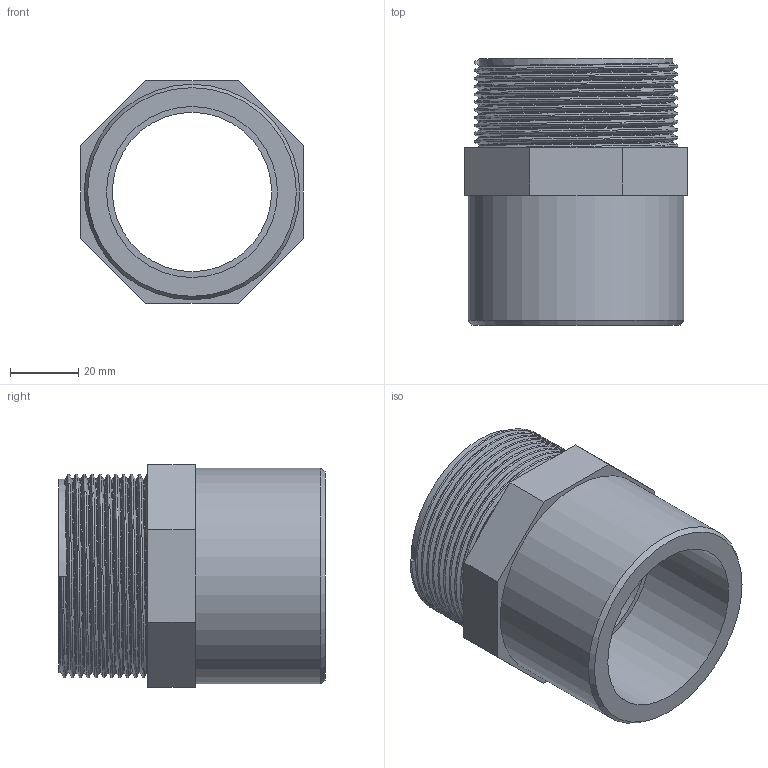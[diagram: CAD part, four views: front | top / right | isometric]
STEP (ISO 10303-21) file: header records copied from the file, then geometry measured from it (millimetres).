
FILE_DESCRIPTION(/* description */ ('PVC adattatore incollaggio-filettatura BSP maschio'),/* implementation_level */ '2;1');
FILE_NAME(/* name */ 'C:\Users\POLYPIPE\Desktop\DATASET INVENTOR\LIBRERIA EFFAST\RACCORDI 3DxWEB\RGR\3D_RGRAMG\3D_RGRAMG050G.stp',/* time_stamp */ '2018-01-19T17:36:24+01:00',/* author */ ('POLYPIPE'),/* organization */ ('Polypipe Italia s.r.l.'),/* preprocessor_version */ 'ST-DEVELOPER v16.1',/* originating_system */ 'Autodesk Inventor 2016',/* authorisation */ '');
FILE_SCHEMA (('CONFIG_CONTROL_DESIGN'));
Length unit declared in the file: millimetre
Products named in the file (1): 3D_RGRAMG
Bounding box: 65 x 78 x 65 mm (x, y, z)
Volume: 92466.4 mm3; surface area: 33688.2 mm2
Topology: 1 solids, 1 shells, 26 faces, 56 edges, 36 vertices
Faces by surface type: plane 15, cylinder 5, bspline 5, cone 1
Full cylindrical faces by diameter (mm): 46.6 x1, 47.6 x1, 50 x1, 56.656 x1, 63 x1
Entity records: 4776 total; most frequent: CARTESIAN_POINT 4223, ORIENTED_EDGE 102, DIRECTION 97, EDGE_CURVE 51, EDGE_LOOP 37, VERTEX_POINT 36, AXIS2_PLACEMENT_3D 35, LINE 27
